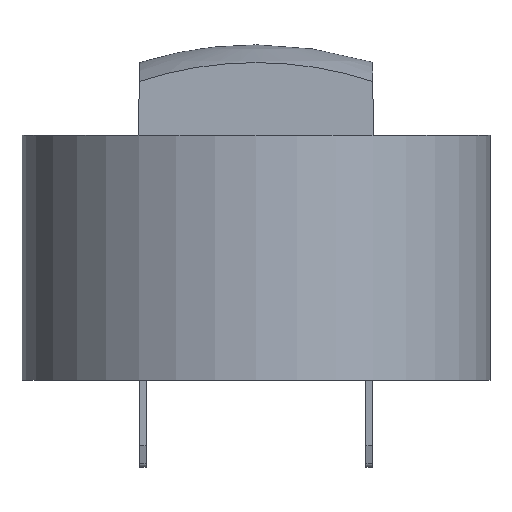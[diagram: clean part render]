
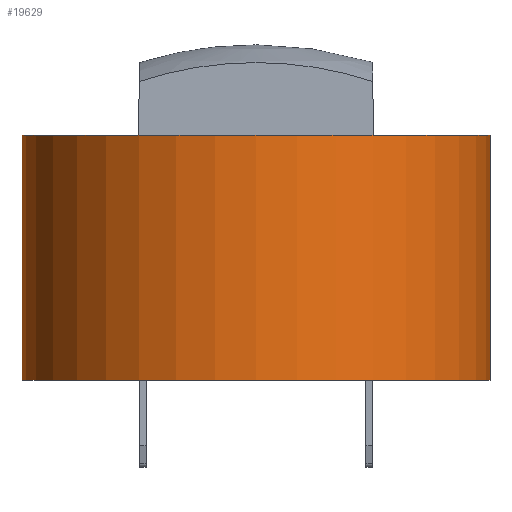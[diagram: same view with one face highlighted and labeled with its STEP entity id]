
A CAD part, front view. The second image highlights one B-rep face of the part: STEP entity #19629.
In plain terms, the highlighted cylindrical face has radius 10.5 mm (diameter 21 mm), a full revolution.
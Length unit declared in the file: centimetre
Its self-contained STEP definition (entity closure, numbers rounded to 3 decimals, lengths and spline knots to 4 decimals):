
#290=FACE_BOUND($,#2246,.T.);
#923=CYLINDRICAL_SURFACE($,#20764,1.05);
#1219=FACE_OUTER_BOUND($,#2245,.T.);
#2245=EDGE_LOOP($,(#12996));
#2246=EDGE_LOOP($,(#12997));
#3289=CIRCLE($,#20751,1.05);
#3295=CIRCLE($,#20763,1.05);
#7586=VERTEX_POINT($,#30086);
#7592=VERTEX_POINT($,#30104);
#9654=EDGE_CURVE($,#7586,#7586,#3289,.T.);
#9660=EDGE_CURVE($,#7592,#7592,#3295,.T.);
#12996=ORIENTED_EDGE($,*,*,#9660,.T.);
#12997=ORIENTED_EDGE($,*,*,#9654,.T.);
#19629=ADVANCED_FACE($,(#1219,#290),#923,.T.);
#20751=AXIS2_PLACEMENT_3D($,#30087,#22706,#22707);
#20763=AXIS2_PLACEMENT_3D($,#30105,#22730,#22731);
#20764=AXIS2_PLACEMENT_3D($,#30106,#22732,#22733);
#22706=DIRECTION('center_axis',(0.,0.,
-1.));
#22707=DIRECTION('ref_axis',(1.,0.,0.));
#22730=DIRECTION('center_axis',(0.,0.,
1.));
#22731=DIRECTION('ref_axis',(1.,0.,0.));
#22732=DIRECTION('center_axis',(0.,0.,
-1.));
#22733=DIRECTION('ref_axis',(1.,0.,0.));
#30086=CARTESIAN_POINT('',(-1.05,0.,0.69));
#30087=CARTESIAN_POINT('Origin',(0.,0.,0.69));
#30104=CARTESIAN_POINT('',(-1.05,0.,-0.41));
#30105=CARTESIAN_POINT('Origin',(0.,0.,
-0.41));
#30106=CARTESIAN_POINT('Origin',(0.,0.,0.69));
